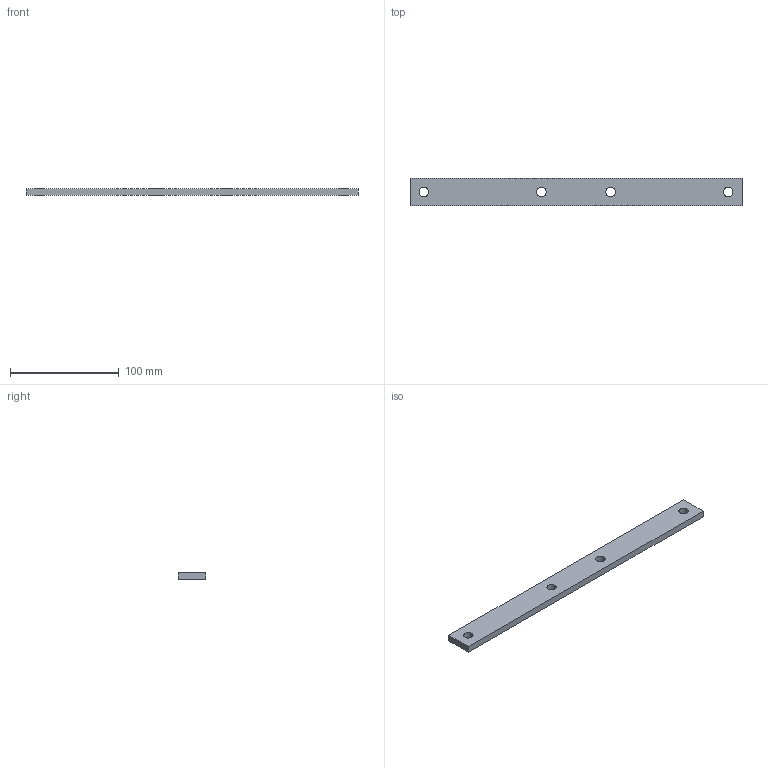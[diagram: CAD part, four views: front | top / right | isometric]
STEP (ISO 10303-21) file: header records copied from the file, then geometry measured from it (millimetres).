
FILE_DESCRIPTION (( 'STEP AP203' ), '1' );
FILE_NAME ('269-18-407.STEP', '2020-03-02T20:57:39', ( '' ), ( '' ), 'SwSTEP 2.0', 'SolidWorks 2017', '' );
FILE_SCHEMA (( 'CONFIG_CONTROL_DESIGN' ));
Length unit declared in the file: inch
Products named in the file (1): 269-18-407
Bounding box: 304.8 x 25.4 x 6.35 mm (x, y, z)
Volume: 47673.4 mm3; surface area: 19897.9 mm2
Topology: 1 solids, 1 shells, 14 faces, 36 edges, 24 vertices
Faces by surface type: cylinder 8, plane 6
Entity records: 531 total; most frequent: DIRECTION 82, CARTESIAN_POINT 75, ORIENTED_EDGE 72, EDGE_CURVE 36, AXIS2_PLACEMENT_3D 31, VERTEX_POINT 24, EDGE_LOOP 22, VECTOR 20
